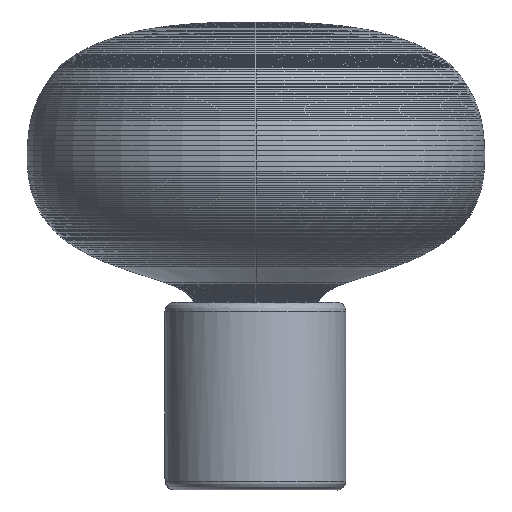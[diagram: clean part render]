
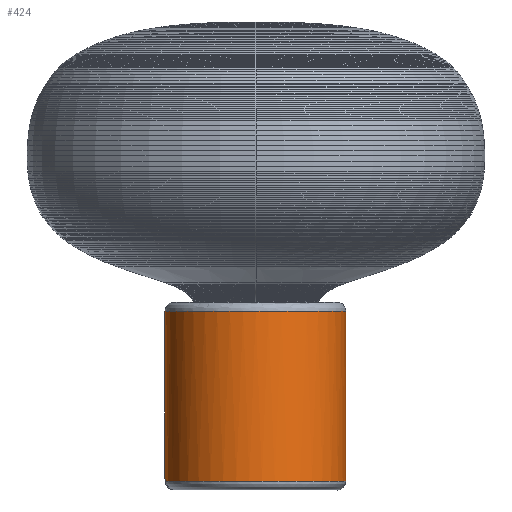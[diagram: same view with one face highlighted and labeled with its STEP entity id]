
A CAD part, left-side view. The second image highlights one B-rep face of the part: STEP entity #424.
In plain terms, the highlighted free-form (B-spline) face has degree [2, 1] with [9, 2] control points.
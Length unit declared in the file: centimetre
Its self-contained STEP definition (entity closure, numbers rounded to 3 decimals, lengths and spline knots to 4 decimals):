
#424=ADVANCED_FACE('',(#799),#4959,.T.);
#799=FACE_OUTER_BOUND('',#1174,.T.);
#1174=EDGE_LOOP('',(#2506,#2507,#2508,#2509,#2510));
#2506=ORIENTED_EDGE('',*,*,#3379,.T.);
#2507=ORIENTED_EDGE('',*,*,#3381,.T.);
#2508=ORIENTED_EDGE('',*,*,#3375,.F.);
#2509=ORIENTED_EDGE('',*,*,#3380,.T.);
#2510=ORIENTED_EDGE('',*,*,#3417,.T.);
#3375=EDGE_CURVE('',#4575,#4578,#4167,.T.);
#3379=EDGE_CURVE('',#4579,#4581,#4171,.T.);
#3380=EDGE_CURVE('',#4575,#4580,#3812,.T.);
#3381=EDGE_CURVE('',#4581,#4578,#3813,.T.);
#3417=EDGE_CURVE('',#4580,#4579,#4193,.T.);
#3812=B_SPLINE_CURVE_WITH_KNOTS('',1,(#11368,#11369),.UNSPECIFIED.,.F.,
 .F.,(2,2),(7.2032,8.2032),.UNSPECIFIED.);
#3813=B_SPLINE_CURVE_WITH_KNOTS('',1,(#11370,#11371),.UNSPECIFIED.,.F.,
 .F.,(2,2),(3.0616,4.0616),.UNSPECIFIED.);
#4167=(
BOUNDED_CURVE()
B_SPLINE_CURVE(2,(#11347,#11348,#11349,#11350,#11351),.UNSPECIFIED.,.F.,
 .F.)
B_SPLINE_CURVE_WITH_KNOTS((3,2,3),(0.,1.5708,3.1416),
 .UNSPECIFIED.)
CURVE()
GEOMETRIC_REPRESENTATION_ITEM()
RATIONAL_B_SPLINE_CURVE((1.,0.707,1.,0.707,1.))
REPRESENTATION_ITEM('')
);
#4171=(
BOUNDED_CURVE()
B_SPLINE_CURVE(2,(#11363,#11364,#11365,#11366,#11367),.UNSPECIFIED.,.F.,
 .F.)
B_SPLINE_CURVE_WITH_KNOTS((3,2,3),(0.,1.5308,3.0616),
 .UNSPECIFIED.)
CURVE()
GEOMETRIC_REPRESENTATION_ITEM()
RATIONAL_B_SPLINE_CURVE((1.,0.721,1.,0.721,1.))
REPRESENTATION_ITEM('')
);
#4193=(
BOUNDED_CURVE()
B_SPLINE_CURVE(3,(#11608,#11609,#11610,#11611,#11612,#11613,#11614,#11615,
#11616,#11617,#11618,#11619,#11620,#11621,#11622,#11623),.UNSPECIFIED.,
 .F.,.F.)
B_SPLINE_CURVE_WITH_KNOTS((4,2,2,2,2,2,2,4),(0.0045,0.0056,
0.0062,0.0064,0.0067,0.0079,
0.0084,0.009),.UNSPECIFIED.)
CURVE()
GEOMETRIC_REPRESENTATION_ITEM()
RATIONAL_B_SPLINE_CURVE((1.,1.,1.,1.,1.,1.,1.,1.,1.,1.,1.,1.,1.,1.,1.,1.))
REPRESENTATION_ITEM('')
);
#4575=VERTEX_POINT('',#11319);
#4578=VERTEX_POINT('',#11322);
#4579=VERTEX_POINT('',#11323);
#4580=VERTEX_POINT('',#11324);
#4581=VERTEX_POINT('',#11325);
#4959=(
BOUNDED_SURFACE()
B_SPLINE_SURFACE(2,1,((#10804,#10805),(#10806,#10807),(#10808,#10809),(#10810,
#10811),(#10812,#10813),(#10814,#10815),(#10816,#10817),(#10818,#10819),
(#10820,#10821)),.UNSPECIFIED.,.F.,.F.,.F.)
B_SPLINE_SURFACE_WITH_KNOTS((3,2,2,2,3),(2,2),(0.,0.8836,1.7671,
2.6507,3.5343),(0.,1.),.UNSPECIFIED.)
GEOMETRIC_REPRESENTATION_ITEM()
RATIONAL_B_SPLINE_SURFACE(((1.,1.),(0.904,0.904),
(1.,1.),(0.904,0.904),(1.,1.),(0.904,0.904),
(1.,1.),(0.904,0.904),(1.,1.)))
REPRESENTATION_ITEM('')
SURFACE()
);
#10804=CARTESIAN_POINT('',(0.,4.6061,1.6038));
#10805=CARTESIAN_POINT('',(0.,4.6061,10.0658));
#10806=CARTESIAN_POINT('',(-2.132,4.6061,1.6038));
#10807=CARTESIAN_POINT('',(-2.132,4.6061,10.0658));
#10808=CARTESIAN_POINT('',(-3.4846,2.958,1.6038));
#10809=CARTESIAN_POINT('',(-3.4846,2.958,10.0658));
#10810=CARTESIAN_POINT('',(-4.8371,1.3099,1.6038));
#10811=CARTESIAN_POINT('',(-4.8371,1.3099,10.0658));
#10812=CARTESIAN_POINT('',(-4.4212,-0.7812,1.6038));
#10813=CARTESIAN_POINT('',(-4.4212,-0.7812,10.0658));
#10814=CARTESIAN_POINT('',(-4.0052,-2.8722,1.6038));
#10815=CARTESIAN_POINT('',(-4.0052,-2.8722,10.0658));
#10816=CARTESIAN_POINT('',(-2.125,-3.8773,1.6038));
#10817=CARTESIAN_POINT('',(-2.125,-3.8773,10.0658));
#10818=CARTESIAN_POINT('',(-0.2447,-4.8823,1.6038));
#10819=CARTESIAN_POINT('',(-0.2447,-4.8823,10.0658));
#10820=CARTESIAN_POINT('',(1.7251,-4.0664,1.6038));
#10821=CARTESIAN_POINT('',(1.7251,-4.0664,10.0658));
#11319=CARTESIAN_POINT('',(0.,4.6061,10.0658));
#11322=CARTESIAN_POINT('',(0.,-4.4095,10.0658));
#11323=CARTESIAN_POINT('',(-0.36,4.5917,1.6038));
#11324=CARTESIAN_POINT('',(0.,4.6061,1.7374));
#11325=CARTESIAN_POINT('',(0.,-4.4095,1.6038));
#11347=CARTESIAN_POINT('',(0.,4.6061,10.0658));
#11348=CARTESIAN_POINT('',(-4.5078,4.6061,10.0658));
#11349=CARTESIAN_POINT('',(-4.5078,0.0983,10.0658));
#11350=CARTESIAN_POINT('',(-4.5078,-4.4095,10.0658));
#11351=CARTESIAN_POINT('',(0.,-4.4095,10.0658));
#11363=CARTESIAN_POINT('',(-0.36,4.5917,1.6038));
#11364=CARTESIAN_POINT('',(-4.6773,4.2457,1.6038));
#11365=CARTESIAN_POINT('',(-4.5042,-0.0819,1.6038));
#11366=CARTESIAN_POINT('',(-4.3311,-4.4095,1.6038));
#11367=CARTESIAN_POINT('',(0.,-4.4095,1.6038));
#11368=CARTESIAN_POINT('',(0.,4.6061,10.0658));
#11369=CARTESIAN_POINT('',(0.,4.6061,1.7374));
#11370=CARTESIAN_POINT('',(0.,-4.4095,1.6038));
#11371=CARTESIAN_POINT('',(0.,-4.4095,10.0658));
#11608=CARTESIAN_POINT('',(0.,4.6061,1.7374));
#11609=CARTESIAN_POINT('',(-0.0328,4.6061,1.7374));
#11610=CARTESIAN_POINT('',(-0.0651,4.6057,1.7345));
#11611=CARTESIAN_POINT('',(-0.113,4.6047,1.7259));
#11612=CARTESIAN_POINT('',(-0.1288,4.6042,1.7223));
#11613=CARTESIAN_POINT('',(-0.1525,4.6035,1.7158));
#11614=CARTESIAN_POINT('',(-0.1603,4.6032,1.7135));
#11615=CARTESIAN_POINT('',(-0.176,4.6026,1.7085));
#11616=CARTESIAN_POINT('',(-0.1838,4.6023,1.7058));
#11617=CARTESIAN_POINT('',(-0.2222,4.6007,1.6915));
#11618=CARTESIAN_POINT('',(-0.2516,4.5991,1.6775));
#11619=CARTESIAN_POINT('',(-0.2938,4.5965,1.6527));
#11620=CARTESIAN_POINT('',(-0.3075,4.5956,1.6438));
#11621=CARTESIAN_POINT('',(-0.3343,4.5937,1.6248));
#11622=CARTESIAN_POINT('',(-0.3474,4.5927,1.6145));
#11623=CARTESIAN_POINT('',(-0.36,4.5917,1.6038));
